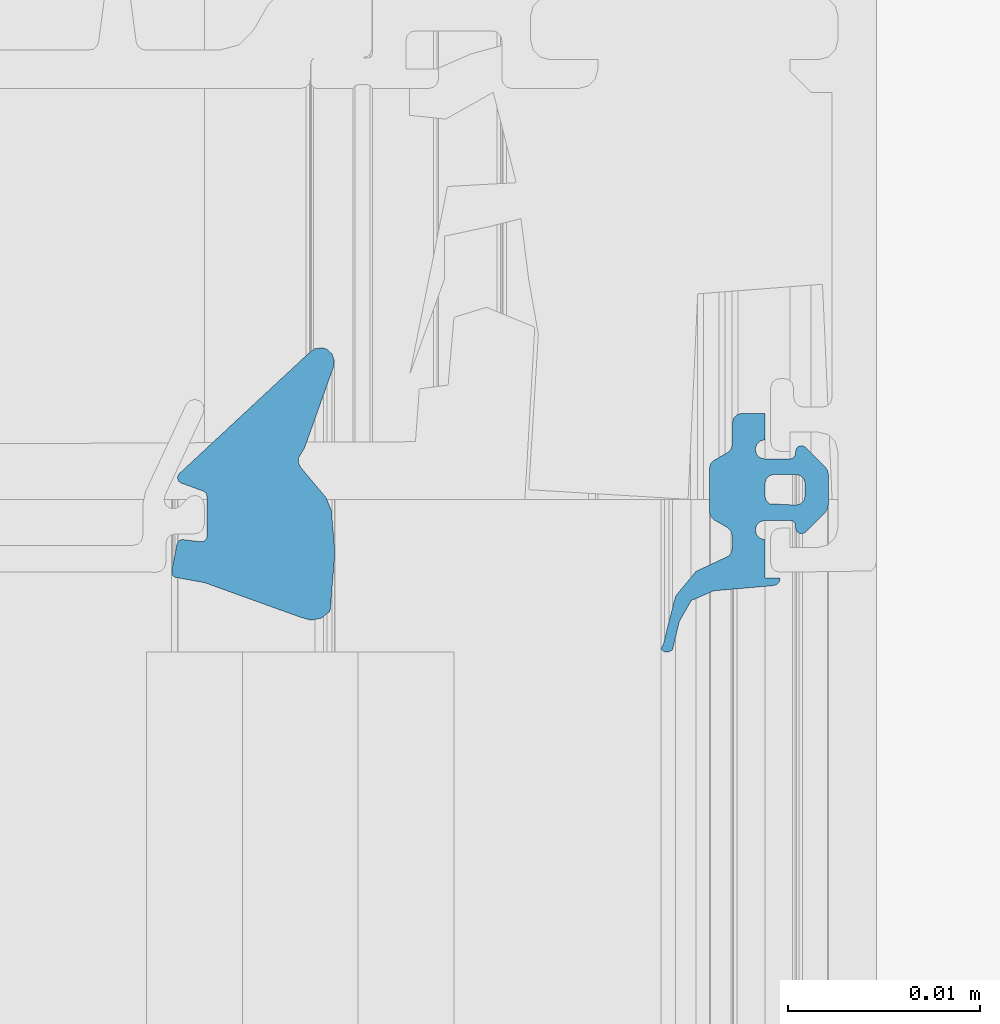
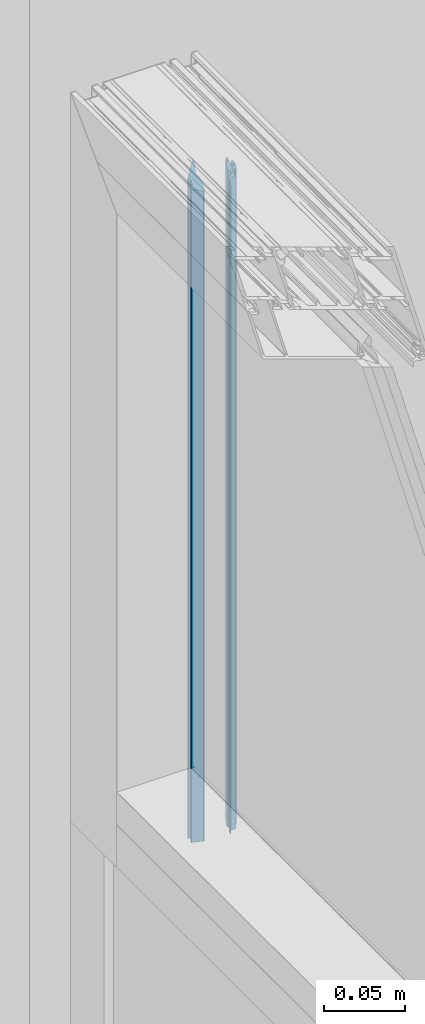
# One storey, part 24 of 62: 1 building element part, 2 elements without a shape of their own.
"""IFC2X3 building model written with IfcOpenShell, lengths in millimetres."""

from ifc_helpers import new_model, entity, si_unit, converted_unit, derived_unit, money_unit, direction, frame, origin_with_axes, place, context, subcontext, project, spatial, faceted_brep, source, transform, mapped, material, type_object, element, aggregate, save


model = new_model("IFC2X3")

# Units and contexts
model_context = context("Model", 3, precision=0.01, world=origin_with_axes(), true_north=direction((0.0, 1.0)))
body_context = subcontext(model_context, "Body", "Model", "MODEL_VIEW")
ifc_project = project(units=[si_unit("LENGTHUNIT", "METRE", prefix="MILLI"), si_unit("AREAUNIT", "SQUARE_METRE"), si_unit("VOLUMEUNIT", "CUBIC_METRE"), converted_unit("PLANEANGLEUNIT", "DEGREE", entity("IfcPlaneAngleMeasure", 0.0174532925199), si_unit("PLANEANGLEUNIT", "RADIAN"), dimensions=[0, 0, 0, 0, 0, 0, 0]), si_unit("SOLIDANGLEUNIT", "STERADIAN"), money_unit("EUR"), converted_unit("TIMEUNIT", "Year", entity("IfcTimeMeasure", 31556926.0), si_unit("TIMEUNIT", "SECOND"), dimensions=[0, 0, 1, 0, 0, 0, 0]), si_unit("MASSUNIT", "GRAM", prefix="KILO"), si_unit("THERMODYNAMICTEMPERATUREUNIT", "DEGREE_CELSIUS"), si_unit("LUMINOUSINTENSITYUNIT", "LUMEN"), si_unit("ENERGYUNIT", "JOULE", prefix="MEGA"), derived_unit("THERMALCONDUCTANCEUNIT", [(si_unit("POWERUNIT", "WATT"), 1), (si_unit("LENGTHUNIT", "METRE"), -1), (si_unit("THERMODYNAMICTEMPERATUREUNIT", "KELVIN"), -1)]), derived_unit("SPECIFICHEATCAPACITYUNIT", [(si_unit("ENERGYUNIT", "JOULE"), 1), (si_unit("MASSUNIT", "GRAM", prefix="KILO"), -1), (si_unit("THERMODYNAMICTEMPERATUREUNIT", "KELVIN"), -1)]), derived_unit("MASSDENSITYUNIT", [(si_unit("MASSUNIT", "GRAM", prefix="KILO"), 1), (si_unit("VOLUMEUNIT", "CUBIC_METRE"), -1)])], contexts=[model_context])

# Site, building, storey
site_placement = place(None, origin_with_axes())
site = spatial("IfcSite", under=ifc_project, at=site_placement, Name="Puškini 31, Narva", CompositionType="ELEMENT")
building_placement = place(site_placement, origin_with_axes())
building = spatial("IfcBuilding", under=site, at=building_placement, Name="Narva Riigigümnaasium", CompositionType="ELEMENT")
storey_placement = place(building_placement, frame((0.0, 0.0, 660.0), z_axis=(0.0, 0.0, 1.0), x_axis=(1.0, 0.0, 0.0)))
storey = spatial("IfcBuildingStorey", under=building, at=storey_placement, Name="2.korrus +0.66", CompositionType="ELEMENT", Elevation=660.0)

# Curtain wall, member, building element part
curtain_wall_type = type_object("IfcCurtainWallType", Name="Curtain Wall Type", PredefinedType="NOTDEFINED")
curtain_wall_placement = place(storey_placement, frame((34855.0128096, 223200.000065, -2.45869393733e-05), z_axis=(0.0, 0.0, 1.0), x_axis=(1.0, 0.0, 0.0)))
curtain_wall = element("IfcCurtainWall", 1, at=curtain_wall_placement, inside=storey, type_object=curtain_wall_type, Name="G-SKLF-50")
member_type = type_object("IfcMemberType", Name="61 x 45", PredefinedType="MULLION")
member_placement = place(curtain_wall_placement, frame((0.00257308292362, 599.999999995, 2400.00002459), z_axis=(0.0, 0.0, 1.0), x_axis=(4.28847155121e-06, 0.999999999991, 0.0)))
member = element("IfcMember", 2, at=member_placement, type_object=member_type, Name="G-SKLF-56-raam", ObjectType="MULLION")
aggregate(curtain_wall, [member])
ifc_material = material(Name="Membraan - Veekindel")
shared_shape = source(origin_with_axes(), body_context, "Body", "Brep", [
    faceted_brep([(61.0413385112, 34.3890442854, -1.80386372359e-07), (59.5800222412, 34.73794757, -1.80386372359e-07), (59.5800222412, 34.73794757, 490.419961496), (61.0413385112, 34.3890442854, 488.958645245), (61.1536677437, 34.1934467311, -1.80386372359e-07), (61.1423164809, 33.9681748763, -1.80386372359e-07), (61.0108941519, 33.784859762, -1.80386372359e-07), (60.7381535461, 33.9217644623, -1.80386372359e-07), (59.8409257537, 34.1343131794, -1.80386372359e-07), (58.2346494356, 34.5489145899, -1.80386372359e-07), (56.9567944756, 35.6067920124, -1.80386372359e-07), (56.2495873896, 37.1074172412, -1.80386372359e-07), (56.1542959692, 37.3107917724, -1.80386372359e-07), (55.9795989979, 37.4519392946, -1.80386372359e-07), (55.7607444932, 37.5023809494, -1.80386372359e-07), (55.1093263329, 37.5023809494, -1.80386372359e-07), (54.8593263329, 37.4353936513, -1.80386372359e-07), (54.676313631, 37.2523809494, -1.80386372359e-07), (54.2721684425, 36.5523809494, -1.80386372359e-07), (54.0891557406, 36.3693682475, -1.80386372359e-07), (53.8391557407, 36.3023809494, -1.80386372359e-07), (51.602145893, 36.3023809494, -1.80386372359e-07), (51.352145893, 36.3693682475, -1.80386372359e-07), (51.1691331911, 36.5523809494, -1.80386372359e-07), (50.7649880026, 37.2523809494, -1.80386372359e-07), (50.5819753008, 37.4353936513, -1.80386372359e-07), (50.3319753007, 37.5023809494, -1.80386372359e-07), (49.2206527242, 37.5023809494, -1.80386372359e-07), (48.9706527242, 37.5693682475, -1.80386372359e-07), (48.7876400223, 37.7523809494, -1.80386372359e-07), (48.7206527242, 38.0023809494, -1.80386372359e-07), (48.7206527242, 39.1999494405, -1.80386372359e-07), (50.10004, 39.1999494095, -1.80386372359e-07), (50.1670287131, 38.9499497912, -1.80386372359e-07), (50.3500424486, 38.7669381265, -1.80386372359e-07), (50.6000428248, 38.699952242, -1.80386372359e-07), (50.8500424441, 38.7669409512, -1.80386372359e-07), (51.0330541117, 38.9499546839, -1.80386372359e-07), (51.10004, 39.1999550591, -1.80386372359e-07), (51.10004, 40.4999366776, -1.80386372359e-07), (51.0598476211, 40.6499366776, -1.80386372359e-07), (50.95004, 40.7597442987, -1.80386372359e-07), (50.80004, 40.7999366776, -1.80386372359e-07), (50.7000457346, 40.7999366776, -1.80386372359e-07), (50.5334025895, 40.8504763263, -1.80386372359e-07), (50.4229059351, 40.9850671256, -1.80386372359e-07), (50.4057850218, 41.1583618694, -1.80386372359e-07), (50.4878083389, 41.3119729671, -1.80386372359e-07), (51.5281601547, 42.3533311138, -1.80386372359e-07), (51.6904310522, 42.4618421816, -1.80386372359e-07), (51.8818844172, 42.4999486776, -1.80386372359e-07), (53.517932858, 42.4999486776, -1.80386372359e-07), (53.7093558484, 42.4618547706, -1.80386372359e-07), (53.8716106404, 42.3533776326, -1.80386372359e-07), (54.9122350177, 41.3120206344, -1.80386372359e-07), (54.9942836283, 41.1584047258, -1.80386372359e-07), (54.9771753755, 40.9850924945, -1.80386372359e-07), (54.866675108, 40.850483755, -1.80386372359e-07), (54.7000173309, 40.7999366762, -1.80386372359e-07), (54.6000210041, 40.7999366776, -1.80386372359e-07), (54.4500210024, 40.7597443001, -1.80386372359e-07), (54.3402133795, 40.6499366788, -1.80386372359e-07), (54.300021, 40.4999366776, -1.80386372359e-07), (54.300021, 39.1999606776, -1.80386372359e-07), (54.3670082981, 38.9499606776, -1.80386372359e-07), (54.5500210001, 38.7669479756, -1.80386372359e-07), (54.8000210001, 38.6999606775, -1.80386372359e-07), (55.0500210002, 38.7669479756, -1.80386372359e-07), (55.2330337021, 38.9499606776, -1.80386372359e-07), (55.3000210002, 39.1999606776, -1.80386372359e-07), (57.3000022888, 39.1999494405, -1.80386372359e-07), (57.3000022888, 39.9999846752, -1.80386372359e-07), (57.5000161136, 39.946391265, -1.80386372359e-07), (57.6464370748, 39.799971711, -1.80386372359e-07), (57.7000324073, 39.5999584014, -1.80386372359e-07), (57.9693613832, 36.5265882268, -1.80386372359e-07), (58.4755028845, 35.3628499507, -1.80386372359e-07), (53.5000340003, 40.7999553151, -1.80386372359e-07), (53.4330491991, 41.0499459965, -1.80386372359e-07), (53.2500433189, 41.2329518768, -1.80386372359e-07), (53.0000526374, 41.299936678, -1.80386372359e-07), (52.4000083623, 41.299936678, -1.80386372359e-07), (52.150017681, 41.2329518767, -1.80386372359e-07), (51.9670118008, 41.0499459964, -1.80386372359e-07), (51.9000269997, 40.799955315, -1.80386372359e-07), (51.9000269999, 39.6999268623, -1.80386372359e-07), (51.9670129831, 39.4499317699, -1.80386372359e-07), (52.1500220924, 39.2669226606, -1.80386372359e-07), (52.4000171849, 39.1999366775, -1.80386372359e-07), (53.0000438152, 39.1999366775, -1.80386372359e-07), (53.2500389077, 39.2669226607, -1.80386372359e-07), (53.433048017, 39.44993177, -1.80386372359e-07), (58.4755028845, 35.3628499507, 491.524480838), (57.9693613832, 36.5265882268, 492.030622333), (57.7000324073, 39.5999584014, 492.299951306), (57.6464370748, 39.799971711, 492.353546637), (57.5000161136, 39.946391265, 492.499967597), (57.3000022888, 39.9999846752, 492.699981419), (57.3000022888, 39.1999494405, 492.699981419), (55.3000210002, 39.1999606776, 494.699962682), (55.2330337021, 38.9499606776, 494.766949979), (55.0500210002, 38.7669479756, 494.949962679), (54.8000210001, 38.6999606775, 495.199962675), (54.5500210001, 38.7669479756, 495.449962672), (54.3670082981, 38.9499606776, 495.632975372), (54.300021, 39.1999606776, 495.699962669), (54.300021, 40.4999366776, 495.699962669), (54.3402133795, 40.6499366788, 495.65977029), (54.4500210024, 40.7597443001, 495.549962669), (54.6000210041, 40.7999366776, 495.399962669), (54.7000173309, 40.7999366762, 495.299966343), (54.866675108, 40.850483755, 495.133308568), (54.9771753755, 40.9850924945, 495.022808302), (54.9942836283, 41.1584047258, 495.00570005), (54.9122350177, 41.3120206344, 495.087748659), (53.8716106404, 42.3533776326, 496.128373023), (53.7093558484, 42.4618547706, 496.290627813), (53.517932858, 42.4999486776, 496.482050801), (51.8818844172, 42.4999486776, 498.118099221), (51.6904310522, 42.4618421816, 498.309552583), (51.5281601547, 42.3533311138, 498.471823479), (50.4878083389, 41.3119729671, 499.512175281), (50.4057850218, 41.1583618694, 499.594198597), (50.4229059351, 40.9850671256, 499.577077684), (50.5334025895, 40.8504763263, 499.466581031), (50.7000457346, 40.7999366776, 499.299937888), (50.80004, 40.7999366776, 499.199943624), (50.95004, 40.7597442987, 499.049943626), (51.0598476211, 40.6499366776, 498.940136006), (51.10004, 40.4999366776, 498.899943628), (51.10004, 39.1999550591, 498.899943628), (51.0330541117, 38.9499546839, 498.966929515), (50.8500424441, 38.7669409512, 499.14994118), (50.6000428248, 38.699952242, 499.399940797), (50.3500424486, 38.7669381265, 499.649941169), (50.1670287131, 38.9499497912, 499.832954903), (50.10004, 39.1999494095, 499.899943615), (48.7206527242, 39.1999494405, 501.279330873), (48.7206527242, 38.0023809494, 501.279330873), (48.7876400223, 37.7523809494, 501.212343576), (48.9706527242, 37.5693682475, 501.029330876), (49.2206527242, 37.5023809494, 500.779330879), (50.3319753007, 37.5023809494, 499.668008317), (50.5819753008, 37.4353936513, 499.41800832), (50.7649880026, 37.2523809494, 499.234995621), (51.1691331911, 36.5523809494, 498.830850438), (51.352145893, 36.3693682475, 498.647837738), (51.602145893, 36.3023809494, 498.397837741), (53.8391557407, 36.3023809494, 496.160827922), (54.0891557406, 36.3693682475, 495.910827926), (54.2721684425, 36.5523809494, 495.727815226), (54.676313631, 37.2523809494, 495.323670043), (54.8593263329, 37.4353936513, 495.140657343), (55.1093263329, 37.5023809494, 494.890657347), (55.7607444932, 37.5023809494, 494.239239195), (55.9795989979, 37.4519392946, 494.020384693), (56.1542959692, 37.3107917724, 493.845687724), (56.2495873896, 37.1074172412, 493.750396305), (56.9567944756, 35.6067920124, 493.043189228), (58.2346494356, 34.5489145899, 491.765334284), (59.8409257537, 34.1343131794, 490.159057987), (60.7381535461, 33.9217644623, 489.261830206), (61.0108941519, 33.784859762, 488.989089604), (61.1423164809, 33.9681748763, 488.857667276), (61.1536677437, 34.1934467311, 488.846316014), (53.5000340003, 40.7999553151, 496.499949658), (53.433048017, 39.44993177, 496.566935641), (53.2500389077, 39.2669226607, 496.749944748), (53.0000438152, 39.1999366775, 496.999939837), (52.4000171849, 39.1999366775, 497.59996646), (52.1500220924, 39.2669226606, 497.849961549), (51.9670129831, 39.4499317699, 498.032970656), (51.9000269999, 39.6999268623, 498.099956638), (51.9000269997, 40.799955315, 498.099956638), (51.9670118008, 41.0499459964, 498.032971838), (52.150017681, 41.2329518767, 497.84996596), (52.4000083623, 41.299936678, 497.599975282), (53.0000526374, 41.299936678, 496.999931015), (53.2500433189, 41.2329518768, 496.749940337), (53.4330491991, 41.0499459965, 496.566934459)], [[[0, 1, 2, 3]], [[0, 4, 5, 6, 7, 8, 9, 10, 11, 12, 13, 14, 15, 16, 17, 18, 19, 20, 21, 22, 23, 24, 25, 26, 27, 28, 29, 30, 31, 32, 33, 34, 35, 36, 37, 38, 39, 40, 41, 42, 43, 44, 45, 46, 47, 48, 49, 50, 51, 52, 53, 54, 55, 56, 57, 58, 59, 60, 61, 62, 63, 64, 65, 66, 67, 68, 69, 70, 71, 72, 73, 74, 75, 76, 1], [77, 78, 79, 80, 81, 82, 83, 84, 85, 86, 87, 88, 89, 90, 91]], [[1, 76, 92, 2]], [[3, 2, 92, 93, 94, 95, 96, 97, 98, 99, 100, 101, 102, 103, 104, 105, 106, 107, 108, 109, 110, 111, 112, 113, 114, 115, 116, 117, 118, 119, 120, 121, 122, 123, 124, 125, 126, 127, 128, 129, 130, 131, 132, 133, 134, 135, 136, 137, 138, 139, 140, 141, 142, 143, 144, 145, 146, 147, 148, 149, 150, 151, 152, 153, 154, 155, 156, 157, 158, 159, 160, 161, 162, 163, 164], [165, 166, 167, 168, 169, 170, 171, 172, 173, 174, 175, 176, 177, 178, 179]], [[4, 0, 3, 164]], [[5, 4, 164, 163]], [[6, 5, 163, 162]], [[7, 6, 162, 161]], [[8, 7, 161, 160]], [[9, 8, 160, 159]], [[10, 9, 159, 158]], [[11, 10, 158, 157]], [[12, 11, 157, 156]], [[13, 12, 156, 155]], [[14, 13, 155, 154]], [[15, 14, 154, 153]], [[16, 15, 153, 152]], [[17, 16, 152, 151]], [[18, 17, 151, 150]], [[19, 18, 150, 149]], [[20, 19, 149, 148]], [[21, 20, 148, 147]], [[22, 21, 147, 146]], [[23, 22, 146, 145]], [[24, 23, 145, 144]], [[25, 24, 144, 143]], [[26, 25, 143, 142]], [[27, 26, 142, 141]], [[28, 27, 141, 140]], [[29, 28, 140, 139]], [[30, 29, 139, 138]], [[31, 30, 138, 137]], [[32, 31, 137, 136]], [[33, 32, 136, 135]], [[34, 33, 135, 134]], [[35, 34, 134, 133]], [[36, 35, 133, 132]], [[37, 36, 132, 131]], [[38, 37, 131, 130]], [[39, 38, 130, 129]], [[40, 39, 129, 128]], [[41, 40, 128, 127]], [[42, 41, 127, 126]], [[43, 42, 126, 125]], [[44, 43, 125, 124]], [[45, 44, 124, 123]], [[46, 45, 123, 122]], [[47, 46, 122, 121]], [[48, 47, 121, 120]], [[49, 48, 120, 119]], [[50, 49, 119, 118]], [[51, 50, 118, 117]], [[52, 51, 117, 116]], [[53, 52, 116, 115]], [[54, 53, 115, 114]], [[55, 54, 114, 113]], [[56, 55, 113, 112]], [[57, 56, 112, 111]], [[58, 57, 111, 110]], [[59, 58, 110, 109]], [[60, 59, 109, 108]], [[61, 60, 108, 107]], [[62, 61, 107, 106]], [[63, 62, 106, 105]], [[64, 63, 105, 104]], [[65, 64, 104, 103]], [[66, 65, 103, 102]], [[67, 66, 102, 101]], [[68, 67, 101, 100]], [[69, 68, 100, 99]], [[70, 69, 99, 98]], [[71, 70, 98, 97]], [[72, 71, 97, 96]], [[73, 72, 96, 95]], [[74, 73, 95, 94]], [[75, 74, 94, 93]], [[76, 75, 93, 92]], [[78, 77, 165, 179]], [[79, 78, 179, 178]], [[80, 79, 178, 177]], [[81, 80, 177, 176]], [[82, 81, 176, 175]], [[83, 82, 175, 174]], [[84, 83, 174, 173]], [[85, 84, 173, 172]], [[86, 85, 172, 171]], [[87, 86, 171, 170]], [[88, 87, 170, 169]], [[89, 88, 169, 168]], [[90, 89, 168, 167]], [[91, 90, 167, 166]], [[77, 91, 166, 165]]]),
    faceted_brep([(59.0307115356, 16.554149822, -1.80386372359e-07), (55.9926715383, 16.8063498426, -1.80386372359e-07), (55.9926715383, 16.8063498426, 494.007312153), (59.0307115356, 16.554149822, 490.969272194), (59.3884652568, 16.1092618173, -1.80386372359e-07), (59.5001582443, 15.5494067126, -1.80386372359e-07), (59.3405112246, 15.0012955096, -1.80386372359e-07), (57.5418652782, 10.0035930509, -1.80386372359e-07), (57.2632233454, 8.46932121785, -1.80386372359e-07), (57.1824204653, 8.36745448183, -1.80386372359e-07), (57.0661058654, 8.3093438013, -1.80386372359e-07), (56.9361285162, 8.30590490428, -1.80386372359e-07), (55.5361285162, 8.57803733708, -1.80386372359e-07), (55.4168250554, 8.62997353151, -1.80386372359e-07), (55.3307332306, 8.72753828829, -1.80386372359e-07), (55.2940485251, 8.85237785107, -1.80386372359e-07), (55.4099827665, 9.81272116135, -1.80386372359e-07), (55.3838261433, 9.9780831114, -1.80386372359e-07), (55.2731258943, 10.1036784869, -1.80386372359e-07), (55.1123574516, 10.1503930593, -1.80386372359e-07), (53.0580290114, 10.1503930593, -1.80386372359e-07), (52.8859560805, 10.0961386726, -1.80386372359e-07), (52.7761212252, 9.95299910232, -1.80386372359e-07), (52.3556584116, 8.79778701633, -1.80386372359e-07), (52.2574645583, 8.66326410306, -1.80386372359e-07), (52.1026310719, 8.60190419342, -1.80386372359e-07), (51.938943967, 8.6326446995, -1.80386372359e-07), (51.8169217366, 8.74599822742, -1.80386372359e-07), (45.6142070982, 15.4144760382, -1.80386372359e-07), (45.3418968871, 15.7688623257, -1.80386372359e-07), (45.3195226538, 16.2152275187, -1.80386372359e-07), (45.3889077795, 16.3899097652, -1.80386372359e-07), (45.6241929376, 16.6482027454, -1.80386372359e-07), (45.950966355, 16.7718696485, -1.80386372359e-07), (46.298307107, 16.7340705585, -1.80386372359e-07), (50.5536994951, 15.2121179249, -1.80386372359e-07), (50.8437237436, 15.0307134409, -1.80386372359e-07), (51.0558924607, 14.9074036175, -1.80386372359e-07), (51.3011765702, 14.8998814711, -1.80386372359e-07), (51.5205025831, 15.0099586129, -1.80386372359e-07), (53.1225200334, 16.3483062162, -1.80386372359e-07), (53.7899070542, 16.6230039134, -1.80386372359e-07), (53.7899070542, 16.6230039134, 496.210076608), (53.1225200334, 16.3483062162, 496.87746362), (51.5205025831, 15.0099586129, 498.47948105), (51.3011765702, 14.8998814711, 498.69880706), (51.0558924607, 14.9074036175, 498.944091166), (50.8437237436, 15.0307134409, 499.156259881), (50.5536994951, 15.2121179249, 499.446284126), (46.298307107, 16.7340705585, 503.701676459), (45.950966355, 16.7718696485, 504.049017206), (45.6241929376, 16.6482027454, 504.37579062), (45.3889077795, 16.3899097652, 504.611075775), (45.3195226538, 16.2152275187, 504.680460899), (45.3418968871, 15.7688623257, 504.658086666), (45.6142070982, 15.4144760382, 504.385776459), (51.8169217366, 8.74599822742, 498.1830619), (51.938943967, 8.6326446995, 498.061039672), (52.1026310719, 8.60190419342, 497.897352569), (52.2574645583, 8.66326410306, 497.742519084), (52.3556584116, 8.79778701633, 497.644325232), (52.7761212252, 9.95299910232, 497.223862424), (52.8859560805, 10.0961386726, 497.11402757), (53.0580290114, 10.1503930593, 496.941954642), (55.1123574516, 10.1503930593, 494.887626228), (55.2731258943, 10.1036784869, 494.726857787), (55.3838261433, 9.9780831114, 494.61615754), (55.4099827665, 9.81272116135, 494.590000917), (55.2940485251, 8.85237785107, 494.705935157), (55.3307332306, 8.72753828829, 494.669250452), (55.4168250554, 8.62997353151, 494.583158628), (55.5361285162, 8.57803733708, 494.463855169), (56.9361285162, 8.30590490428, 493.063855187), (57.0661058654, 8.3093438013, 492.933877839), (57.1824204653, 8.36745448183, 492.817563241), (57.2632233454, 8.46932121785, 492.736760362), (57.5418652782, 10.0035930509, 492.458118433), (59.3405112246, 15.0012955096, 490.659472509), (59.5001582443, 15.5494067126, 490.499825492), (59.3884652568, 16.1092618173, 490.611518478)], [[[0, 1, 2, 3]], [[0, 4, 5, 6, 7, 8, 9, 10, 11, 12, 13, 14, 15, 16, 17, 18, 19, 20, 21, 22, 23, 24, 25, 26, 27, 28, 29, 30, 31, 32, 33, 34, 35, 36, 37, 38, 39, 40, 41, 1]], [[1, 41, 42, 2]], [[3, 2, 42, 43, 44, 45, 46, 47, 48, 49, 50, 51, 52, 53, 54, 55, 56, 57, 58, 59, 60, 61, 62, 63, 64, 65, 66, 67, 68, 69, 70, 71, 72, 73, 74, 75, 76, 77, 78, 79]], [[4, 0, 3, 79]], [[5, 4, 79, 78]], [[6, 5, 78, 77]], [[7, 6, 77, 76]], [[8, 7, 76, 75]], [[9, 8, 75, 74]], [[10, 9, 74, 73]], [[11, 10, 73, 72]], [[12, 11, 72, 71]], [[13, 12, 71, 70]], [[14, 13, 70, 69]], [[15, 14, 69, 68]], [[16, 15, 68, 67]], [[17, 16, 67, 66]], [[18, 17, 66, 65]], [[19, 18, 65, 64]], [[20, 19, 64, 63]], [[21, 20, 63, 62]], [[22, 21, 62, 61]], [[23, 22, 61, 60]], [[24, 23, 60, 59]], [[25, 24, 59, 58]], [[26, 25, 58, 57]], [[27, 26, 57, 56]], [[28, 27, 56, 55]], [[29, 28, 55, 54]], [[30, 29, 54, 53]], [[31, 30, 53, 52]], [[32, 31, 52, 51]], [[33, 32, 51, 50]], [[34, 33, 50, 49]], [[35, 34, 49, 48]], [[36, 35, 48, 47]], [[37, 36, 47, 46]], [[38, 37, 46, 45]], [[39, 38, 45, 44]], [[40, 39, 44, 43]], [[41, 40, 43, 42]]]),
])
building_element_part_placement = place(member_placement, origin_with_axes())
building_element_part = element("IfcBuildingElementPart", 3, at=building_element_part_placement, material=ifc_material, Name="Membraan - Veekindel", context=body_context, shape_type="MappedRepresentation", body=[
    mapped(shared_shape, transform((0.0, 0.0, 0.0), x_axis=(-1.0, 0.0, 0.0), y_axis=(0.0, -1.0, 0.0), z_axis=(0.0, 0.0, 1.0))),
])
aggregate(member, [building_element_part])

save(model, "model.ifc")
